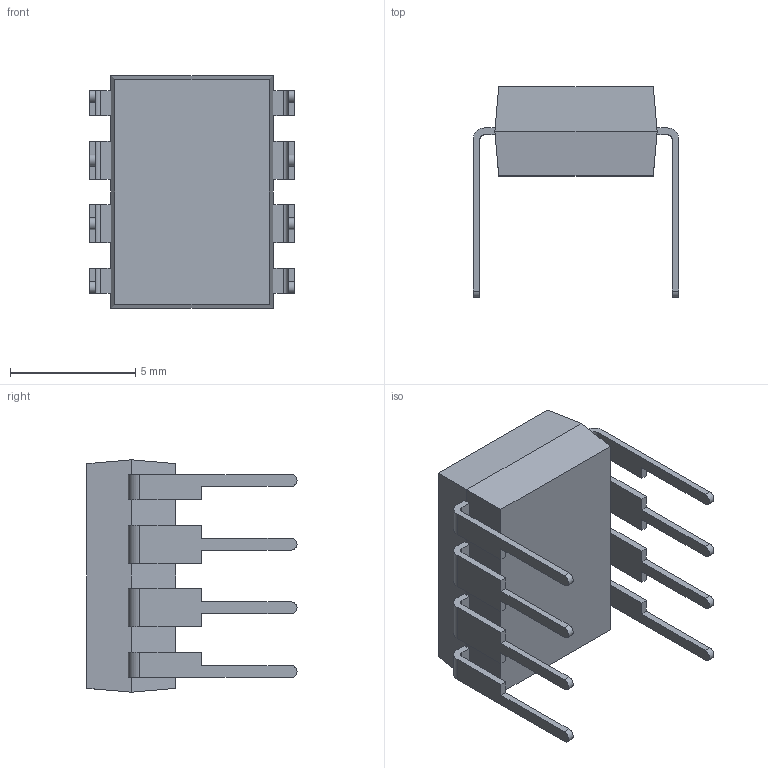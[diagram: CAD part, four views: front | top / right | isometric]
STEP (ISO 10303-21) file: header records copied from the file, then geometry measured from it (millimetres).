
FILE_DESCRIPTION (( 'STEP AP214' ), '1' );
FILE_NAME ('BQ2002GPN.STEP', '2025-08-11T22:20:30', ( '' ), ( '' ), 'SwSTEP 2.0', 'SolidWorks 2021', '' );
FILE_SCHEMA (( 'AUTOMOTIVE_DESIGN' ));
Length unit declared in the file: millimetre
Products named in the file (1): BQ2002GPN
Bounding box: 8.21 x 8.38 x 9.27 mm (x, y, z)
Volume: 216.8 mm3; surface area: 356.2 mm2
Topology: 10 solids, 10 shells, 134 faces, 333 edges, 220 vertices
Faces by surface type: plane 104, cylinder 30
Entity records: 4064 total; most frequent: CARTESIAN_POINT 688, ORIENTED_EDGE 666, DIRECTION 663, EDGE_CURVE 333, LINE 273, VECTOR 273, VERTEX_POINT 220, AXIS2_PLACEMENT_3D 195
